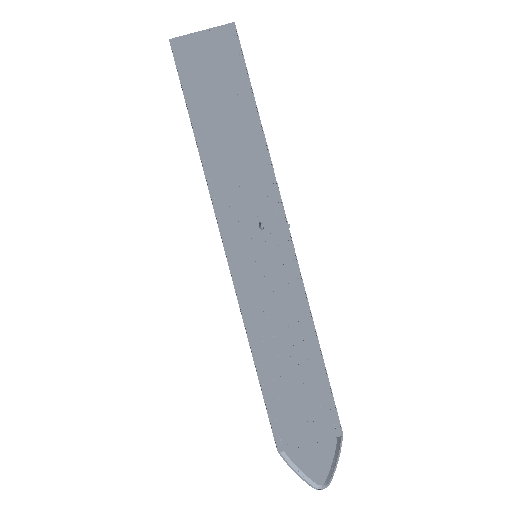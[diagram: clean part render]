
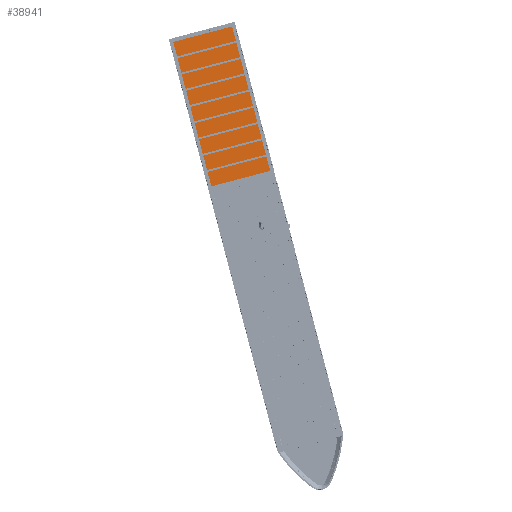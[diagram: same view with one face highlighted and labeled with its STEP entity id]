
A CAD part, top view. The second image highlights one B-rep face of the part: STEP entity #38941.
In plain terms, the highlighted planar face has unit normal (0, 0, 1).
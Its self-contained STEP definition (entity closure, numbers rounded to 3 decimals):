
#27296=CARTESIAN_POINT('Line Origine',(2499.,28635.5,600.)) ;
#27300=CARTESIAN_POINT('Vertex',(2499.,34839.,600.)) ;
#27302=CARTESIAN_POINT('Vertex',(2499.,22271.,600.)) ;
#38724=CARTESIAN_POINT('Line Origine',(-2499.,28635.5,600.)) ;
#38728=CARTESIAN_POINT('Vertex',(-2499.,22271.,600.)) ;
#38730=CARTESIAN_POINT('Vertex',(-2499.,34839.,600.)) ;
#38876=CARTESIAN_POINT('Line Origine',(0.,34839.,600.)) ;
#38925=CARTESIAN_POINT('Axis2P3D Location',(0.,0.,600.)) ;
#38930=CARTESIAN_POINT('Line Origine',(0.,22271.,600.)) ;
#27297=DIRECTION('Vector Direction',(0.,1.,0.)) ;
#38725=DIRECTION('Vector Direction',(0.,-1.,0.)) ;
#38877=DIRECTION('Vector Direction',(1.,0.,0.)) ;
#38926=DIRECTION('Axis2P3D Direction',(0.,0.,1.)) ;
#38927=DIRECTION('Axis2P3D XDirection',(1.,0.,0.)) ;
#38931=DIRECTION('Vector Direction',(-1.,0.,0.)) ;
#38928=AXIS2_PLACEMENT_3D('Plane Axis2P3D',#38925,#38926,#38927) ;
#38936=ORIENTED_EDGE('',*,*,#27304,.F.) ;
#38937=ORIENTED_EDGE('',*,*,#38880,.F.) ;
#38938=ORIENTED_EDGE('',*,*,#38732,.F.) ;
#38939=ORIENTED_EDGE('',*,*,#38934,.F.) ;
#27298=VECTOR('Line Direction',#27297,1.) ;
#38726=VECTOR('Line Direction',#38725,1.) ;
#38878=VECTOR('Line Direction',#38877,1.) ;
#38932=VECTOR('Line Direction',#38931,1.) ;
#38941=ADVANCED_FACE('PartBody',(#38940),#38929,.T.) ;
#27304=EDGE_CURVE('',#27301,#27303,#27299,.F.) ;
#38732=EDGE_CURVE('',#38729,#38731,#38727,.F.) ;
#38880=EDGE_CURVE('',#38731,#27301,#38879,.T.) ;
#38934=EDGE_CURVE('',#27303,#38729,#38933,.T.) ;
#38935=EDGE_LOOP('',(#38936,#38937,#38938,#38939)) ;
#38940=FACE_OUTER_BOUND('',#38935,.T.) ;
#27299=LINE('Line',#27296,#27298) ;
#38727=LINE('Line',#38724,#38726) ;
#38879=LINE('Line',#38876,#38878) ;
#38933=LINE('Line',#38930,#38932) ;
#38929=PLANE('Plane',#38928) ;
#27301=VERTEX_POINT('',#27300) ;
#27303=VERTEX_POINT('',#27302) ;
#38729=VERTEX_POINT('',#38728) ;
#38731=VERTEX_POINT('',#38730) ;
